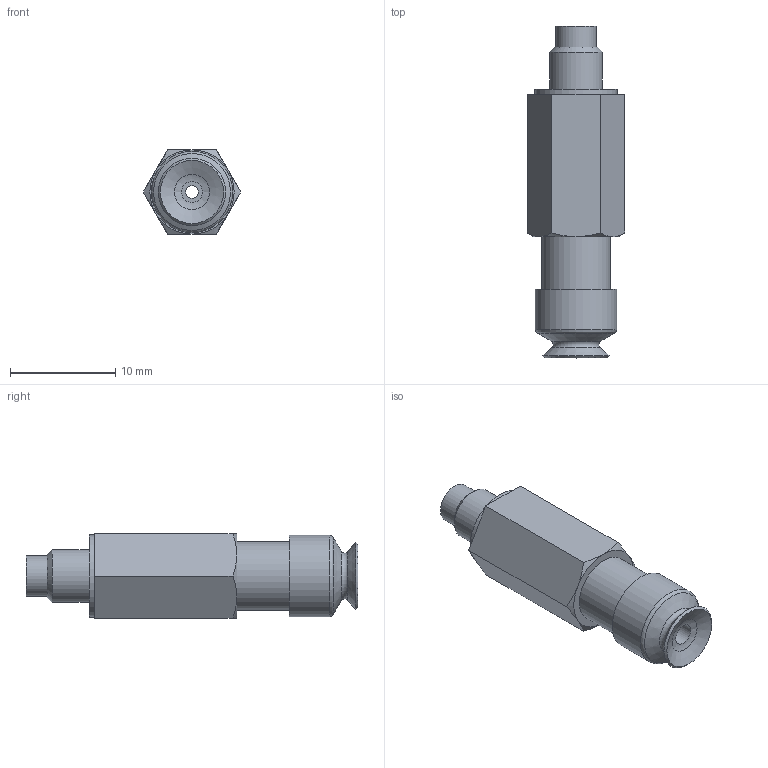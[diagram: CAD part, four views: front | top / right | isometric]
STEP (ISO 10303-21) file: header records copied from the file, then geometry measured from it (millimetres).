
FILE_DESCRIPTION(('STEP AP203'),'1');
FILE_NAME('.stp','2025-04-07T04:37:05',(' '),(' '),'Spatial InterOp 3D',' ',' ');
FILE_SCHEMA(('CONFIG_CONTROL_DESIGN'));
Length unit declared in the file: millimetre
Products named in the file (4): BPSS-L5-BPFG-6A-※; PSS-7-L5-M; PSS-7-L5-F; BPFG-6A-※
Assembly tree (3 placements, depth 2):
  BPSS-L5-BPFG-6A-※
    PSS-7-L5-M
    PSS-7-L5-F
    BPFG-6A-※
Bounding box: 9.24 x 31.5 x 8 mm (x, y, z)
Volume: 1138.4 mm3; surface area: 1731 mm2
Topology: 3 solids, 3 shells, 54 faces, 102 edges, 63 vertices
Faces by surface type: plane 21, cylinder 15, cone 11, torus 6, bspline 1
Full cylindrical faces by diameter (mm): 1.2 x1, 2 x1, 2.4 x2, 3.4 x1, 3.8 x1, 4 x2, 5 x1, 6 x2, 6.5 x2, 7.7 x1, 7.8 x1
Entity records: 1417 total; most frequent: CARTESIAN_POINT 239, DIRECTION 220, ORIENTED_EDGE 142, AXIS2_PLACEMENT_3D 104, EDGE_LOOP 96, FACE_OUTER_BOUND 76, EDGE_CURVE 71, VERTEX_POINT 59
